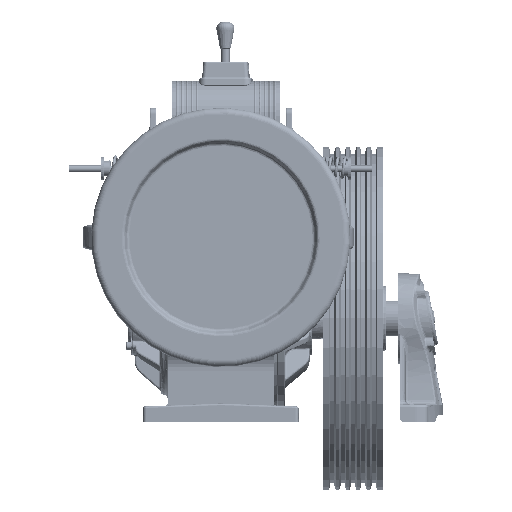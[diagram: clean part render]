
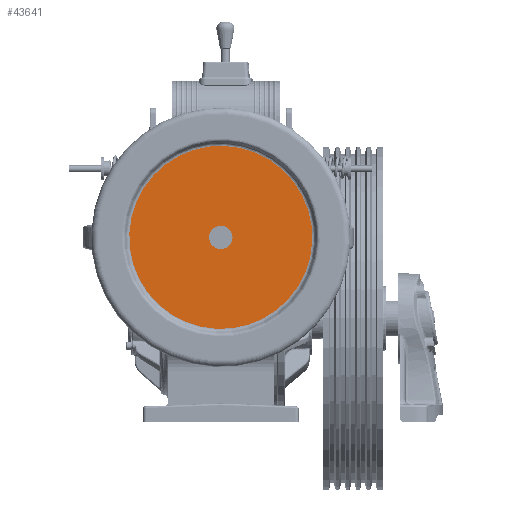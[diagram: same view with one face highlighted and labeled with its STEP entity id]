
A CAD part, front view. The second image highlights one B-rep face of the part: STEP entity #43641.
In plain terms, the highlighted planar face has unit normal (0, -1, 0).
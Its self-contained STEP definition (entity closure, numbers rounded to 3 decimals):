
#6486 = EDGE_CURVE ( 'NONE', #203942, #44549, #80107, .T. ) ;
#11736 = DIRECTION ( 'NONE',  ( -0.051, 0., -0.999 ) ) ;
#17944 = EDGE_CURVE ( 'NONE', #203292, #41604, #150796, .T. ) ;
#18304 = CIRCLE ( 'NONE', #184979, 18.111 ) ;
#24626 = AXIS2_PLACEMENT_3D ( 'NONE', #148814, #50941, #198757 ) ;
#29950 = CIRCLE ( 'NONE', #130575, 141.34 ) ;
#39276 = CARTESIAN_POINT ( 'NONE',  ( -139.979, -547.552, 1426.22 ) ) ;
#41604 = VERTEX_POINT ( 'NONE', #170763 ) ;
#43641 = ADVANCED_FACE ( 'NONE', ( #166063, #201842 ), #82431, .T. ) ;
#44549 = VERTEX_POINT ( 'NONE', #105730 ) ;
#45456 = CARTESIAN_POINT ( 'NONE',  ( -147.22, -547.552, 1285.066 ) ) ;
#49753 = DIRECTION ( 'NONE',  ( 0., -1., 0. ) ) ;
#50473 = DIRECTION ( 'NONE',  ( 0., -1., 0. ) ) ;
#50941 = DIRECTION ( 'NONE',  ( 0., -1., 0. ) ) ;
#66100 = CARTESIAN_POINT ( 'NONE',  ( -6.066, -547.552, 1277.825 ) ) ;
#67178 = DIRECTION ( 'NONE',  ( -0.051, 0., -0.999 ) ) ;
#79518 = CARTESIAN_POINT ( 'NONE',  ( -147.22, -547.552, 1285.066 ) ) ;
#80107 = CIRCLE ( 'NONE', #24626, 141.34 ) ;
#82431 = PLANE ( 'NONE',  #165921 ) ;
#92474 = ORIENTED_EDGE ( 'NONE', *, *, #17944, .F. ) ;
#105730 = CARTESIAN_POINT ( 'NONE',  ( -154.461, -547.552, 1143.912 ) ) ;
#107840 = DIRECTION ( 'NONE',  ( -0.051, 0., -0.999 ) ) ;
#109695 = DIRECTION ( 'NONE',  ( 0., -1., 0. ) ) ;
#119854 = EDGE_CURVE ( 'NONE', #44549, #203942, #29950, .T. ) ;
#129507 = DIRECTION ( 'NONE',  ( 0., -1., 0. ) ) ;
#130529 = EDGE_CURVE ( 'NONE', #41604, #203292, #18304, .T. ) ;
#130575 = AXIS2_PLACEMENT_3D ( 'NONE', #45456, #109695, #11736 ) ;
#134045 = ORIENTED_EDGE ( 'NONE', *, *, #6486, .T. ) ;
#137398 = DIRECTION ( 'NONE',  ( -0.051, 0., -0.999 ) ) ;
#139098 = EDGE_LOOP ( 'NONE', ( #201745, #92474 ) ) ;
#143862 = AXIS2_PLACEMENT_3D ( 'NONE', #79518, #129507, #107840 ) ;
#148814 = CARTESIAN_POINT ( 'NONE',  ( -147.22, -547.552, 1285.066 ) ) ;
#150796 = CIRCLE ( 'NONE', #143862, 18.111 ) ;
#152286 = EDGE_LOOP ( 'NONE', ( #186921, #134045 ) ) ;
#165921 = AXIS2_PLACEMENT_3D ( 'NONE', #66100, #49753, #67178 ) ;
#166063 = FACE_OUTER_BOUND ( 'NONE', #152286, .T. ) ;
#170763 = CARTESIAN_POINT ( 'NONE',  ( -146.292, -547.552, 1303.153 ) ) ;
#171029 = CARTESIAN_POINT ( 'NONE',  ( -147.22, -547.552, 1285.066 ) ) ;
#184979 = AXIS2_PLACEMENT_3D ( 'NONE', #171029, #50473, #137398 ) ;
#185818 = CARTESIAN_POINT ( 'NONE',  ( -148.148, -547.552, 1266.979 ) ) ;
#186921 = ORIENTED_EDGE ( 'NONE', *, *, #119854, .T. ) ;
#198757 = DIRECTION ( 'NONE',  ( -0.051, 0., -0.999 ) ) ;
#201745 = ORIENTED_EDGE ( 'NONE', *, *, #130529, .F. ) ;
#201842 = FACE_BOUND ( 'NONE', #139098, .T. ) ;
#203292 = VERTEX_POINT ( 'NONE', #185818 ) ;
#203942 = VERTEX_POINT ( 'NONE', #39276 ) ;
